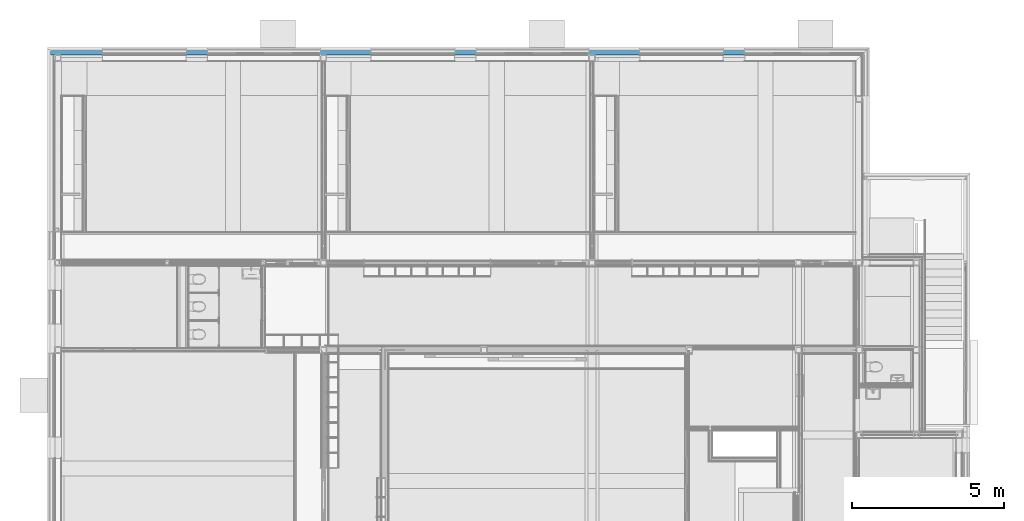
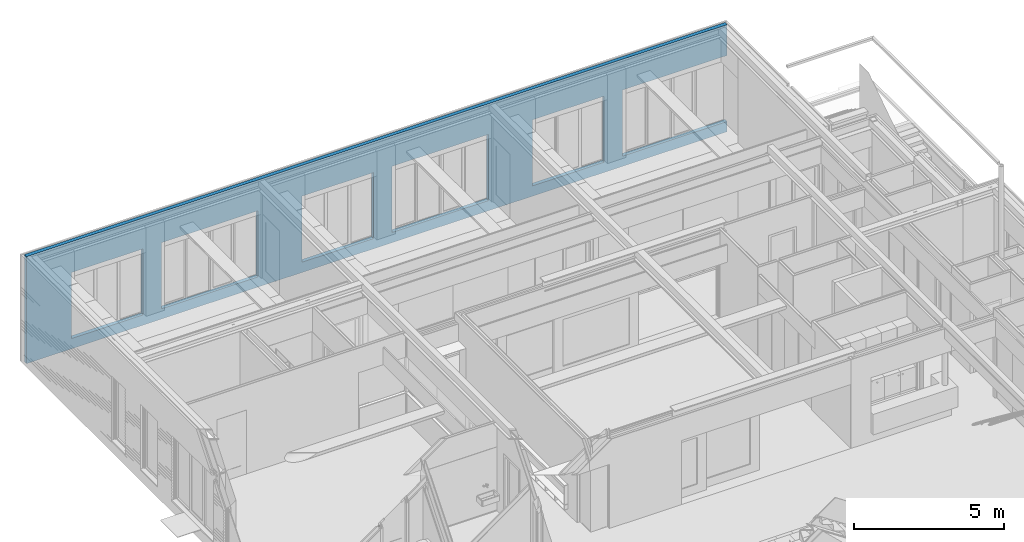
# One storey, part 85 of 165: 1 building element part, 11 openings, 1 element without a shape of its own.
"""IFC2X3 building model written with IfcOpenShell, lengths in millimetres."""

from ifc_helpers import new_model, entity, si_unit, converted_unit, derived_unit, money_unit, direction, frame, origin_with_axes, place, context, subcontext, project, spatial, faceted_brep, material, type_object, element, aggregate, save


model = new_model("IFC2X3")

# Units and contexts
model_context = context("Model", 3, precision=0.01, world=origin_with_axes(), true_north=direction((0.0, 1.0)))
body_context = subcontext(model_context, "Body", "Model", "MODEL_VIEW")
ifc_project = project(units=[si_unit("LENGTHUNIT", "METRE", prefix="MILLI"), si_unit("AREAUNIT", "SQUARE_METRE"), si_unit("VOLUMEUNIT", "CUBIC_METRE"), converted_unit("PLANEANGLEUNIT", "DEGREE", entity("IfcPlaneAngleMeasure", 0.0174532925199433), si_unit("PLANEANGLEUNIT", "RADIAN"), dimensions=[0, 0, 0, 0, 0, 0, 0]), money_unit("EUR"), converted_unit("TIMEUNIT", "Year", entity("IfcTimeMeasure", 31556926.0), si_unit("TIMEUNIT", "SECOND"), dimensions=[0, 0, 1, 0, 0, 0, 0]), si_unit("MASSUNIT", "GRAM", prefix="KILO"), si_unit("THERMODYNAMICTEMPERATUREUNIT", "DEGREE_CELSIUS"), si_unit("LUMINOUSINTENSITYUNIT", "LUMEN"), si_unit("ENERGYUNIT", "JOULE", prefix="MEGA"), derived_unit("THERMALCONDUCTANCEUNIT", [(si_unit("POWERUNIT", "WATT"), 1), (si_unit("LENGTHUNIT", "METRE"), -1), (si_unit("THERMODYNAMICTEMPERATUREUNIT", "KELVIN"), -1)]), derived_unit("SPECIFICHEATCAPACITYUNIT", [(si_unit("ENERGYUNIT", "JOULE"), 1), (si_unit("MASSUNIT", "GRAM", prefix="KILO"), -1), (si_unit("THERMODYNAMICTEMPERATUREUNIT", "KELVIN"), -1)]), derived_unit("MASSDENSITYUNIT", [(si_unit("MASSUNIT", "GRAM", prefix="KILO"), 1), (si_unit("VOLUMEUNIT", "CUBIC_METRE"), -1)])], contexts=[model_context])

# Site, building, storey
site_placement = place(None, origin_with_axes())
site = spatial("IfcSite", under=ifc_project, at=site_placement, Name="Site", CompositionType="ELEMENT")
building_placement = place(site_placement, origin_with_axes())
building = spatial("IfcBuilding", under=site, at=building_placement, Name="Naam gebouw", CompositionType="ELEMENT")
storey_placement = place(building_placement, origin_with_axes())
storey = spatial("IfcBuildingStorey", under=building, at=storey_placement, Name="Begane grond", CompositionType="ELEMENT", Elevation=0.0)

# Wall, openings, building element part
wall_type = type_object("IfcWallType", Name="21 Buitenwand spouwmuur 464", PredefinedType="NOTDEFINED")
wall_placement = place(storey_placement, frame((0.0, 29175.0, -485.0), z_axis=(0.0, 0.0, 1.0), x_axis=(1.0, 0.0, 0.0)))
wall = element("IfcWall", 1, at=wall_placement, inside=storey, type_object=wall_type, Name="21_Wand-x")
opening_1_placement = place(wall_placement, frame((24792.49942456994, 0.0, 415.0000443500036), z_axis=(0.0, 0.0, 1.0), x_axis=(1.0, 0.0, 0.0)))
element("IfcOpeningElement", 2, at=opening_1_placement, cuts=wall, Name="_Merk AB2", context=body_context, shape_type="Brep", body=[
    faceted_brep([(-2057.500000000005, 0.0, 2679.999942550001), (1807.500575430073, 0.0, 2679.999942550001), (2057.499999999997, 249.9994245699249, 2679.999942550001), (2057.499999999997, 251.0000000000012, 2679.999942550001), (-2057.500000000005, 251.0000000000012, 2679.999942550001), (-2057.500000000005, 0.0, 3669.999953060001), (1807.500575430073, 0.0, 3669.999953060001), (1592.500575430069, -214.9999999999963, 3669.999953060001), (1592.500575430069, -214.9999999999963, 2679.999942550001), (1592.500575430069, -214.9999999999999, 0.0), (2057.499999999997, 249.9994245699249, 0.0), (2057.499999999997, 251.0000000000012, 0.0), (-2057.500000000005, 251.0000000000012, 0.0), (-2057.500000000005, -214.9999999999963, 2679.999942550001), (-2057.500000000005, -214.9999999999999, 0.0), (-2057.500000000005, -214.9999999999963, 3669.999953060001)], [[[0, 1, 2, 3, 4]], [[1, 0, 5, 6]], [[2, 1, 6, 7, 8, 9, 10]], [[10, 11, 3, 2]], [[12, 4, 3, 11]], [[13, 0, 4, 12, 14]], [[0, 13, 15, 5]], [[6, 5, 15, 7]], [[13, 8, 7, 15]], [[8, 13, 14, 9]], [[9, 14, 12, 11, 10]]]),
])
opening_2_placement = place(wall_placement, frame((11799.99942456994, 0.0, 475.0), z_axis=(0.0, 0.0, 1.0), x_axis=(1.0, 0.0, 0.0)))
element("IfcOpeningElement", 3, at=opening_2_placement, cuts=wall, Name="_Merk AF", context=body_context, shape_type="Brep", body=[
    faceted_brep([(1375.0, 0.0, -60.00000000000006), (1375.0, 0.0, 2620.0), (1375.0, 0.0, 3620.0), (1375.0, -214.9999999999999, 3620.0), (1375.0, -214.9999999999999, -1060.0), (1375.0, 0.0, -1060.0), (1375.0, 71.99999999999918, -60.00000000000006), (1375.0, 71.99999999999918, 2620.0), (-1375.0, 0.0, 2620.0), (-1375.0, 0.0, 3620.0), (-1375.0, -214.9999999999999, 3620.0), (-1375.0, -214.9999999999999, -1060.0), (-1375.0, 0.0, -1060.0), (-1375.0, 0.0, -60.00000000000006), (-1375.0, 71.99999999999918, -60.00000000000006), (1385.0, 71.99999999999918, -60.00000000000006), (1385.0, 71.99999999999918, 2620.0), (-1375.0, 71.99999999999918, 2620.0), (-1385.0, 71.99999999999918, -60.00000000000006), (-1385.0, 251.0000000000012, -60.00000000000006), (1385.0, 251.0000000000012, -60.00000000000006), (1385.0, 251.0000000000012, 2620.0), (-1385.0, 251.0000000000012, 2620.0), (-1385.0, 71.99999999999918, 2620.0)], [[[0, 1, 2, 3, 4, 5]], [[1, 0, 6, 7]], [[1, 8, 9, 2]], [[2, 9, 10, 3]], [[10, 11, 4, 3]], [[12, 5, 4, 11]], [[13, 0, 5, 12]], [[0, 13, 14, 6]], [[7, 6, 15, 16]], [[8, 1, 7, 17]], [[8, 13, 12, 11, 10, 9]], [[13, 8, 17, 14]], [[6, 14, 18, 19, 20, 15]], [[16, 15, 20, 21]], [[17, 7, 16, 21, 22, 23]], [[14, 17, 23, 18]], [[18, 23, 22, 19]], [[21, 20, 19, 22]]]),
])
opening_3_placement = place(wall_placement, frame((2950.000000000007, 0.0, 475.0), z_axis=(0.0, 0.0, 1.0), x_axis=(1.0, 0.0, 0.0)))
element("IfcOpeningElement", 4, at=opening_3_placement, cuts=wall, Name="_Merk AF", context=body_context, shape_type="Brep", body=[
    faceted_brep([(1375.0, 0.0, -60.00000000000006), (1375.0, 0.0, 2620.0), (1375.0, 0.0, 3620.0), (1375.0, -214.9999999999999, 3620.0), (1375.0, -214.9999999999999, -1060.0), (1375.0, 0.0, -1060.0), (1375.0, 71.99999999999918, -60.00000000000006), (1375.0, 71.99999999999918, 2620.0), (-1375.0, 0.0, 2620.0), (-1375.0, 0.0, 3620.0), (-1375.0, -214.9999999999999, 3620.0), (-1375.0, -214.9999999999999, -1060.0), (-1375.0, 0.0, -1060.0), (-1375.0, 0.0, -60.00000000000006), (-1375.0, 71.99999999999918, -60.00000000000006), (1385.0, 71.99999999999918, -60.00000000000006), (1385.0, 71.99999999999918, 2620.0), (-1375.0, 71.99999999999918, 2620.0), (-1385.0, 71.99999999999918, -60.00000000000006), (-1385.0, 251.0000000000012, -60.00000000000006), (1385.0, 251.0000000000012, -60.00000000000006), (1385.0, 251.0000000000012, 2620.0), (-1385.0, 251.0000000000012, 2620.0), (-1385.0, 71.99999999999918, 2620.0)], [[[0, 1, 2, 3, 4, 5]], [[1, 0, 6, 7]], [[1, 8, 9, 2]], [[2, 9, 10, 3]], [[10, 11, 4, 3]], [[12, 5, 4, 11]], [[13, 0, 5, 12]], [[0, 13, 14, 6]], [[7, 6, 15, 16]], [[8, 1, 7, 17]], [[8, 13, 12, 11, 10, 9]], [[13, 8, 17, 14]], [[6, 14, 18, 19, 20, 15]], [[16, 15, 20, 21]], [[17, 7, 16, 21, 22, 23]], [[14, 17, 23, 18]], [[18, 23, 22, 19]], [[21, 20, 19, 22]]]),
])
opening_4_placement = place(wall_placement, frame((15734.99942456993, 0.0, 415.0000000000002), z_axis=(0.0, 0.0, 1.0), x_axis=(1.0, 0.0, 0.0)))
element("IfcOpeningElement", 5, at=opening_4_placement, cuts=wall, Name="_Merk AA", context=body_context, shape_type="Brep", body=[
    faceted_brep([(-1850.000000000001, 0.0, 2679.999942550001), (1850.000000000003, 0.0, 2679.999942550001), (1850.000000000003, 251.0000000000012, 2679.999942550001), (-1850.000000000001, 251.0000000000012, 2679.999942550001), (-1850.000000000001, 0.0, 3669.999942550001), (1850.000000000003, 0.0, 3669.999942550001), (1850.000000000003, -214.9999999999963, 2679.999942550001), (1850.000000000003, -214.9999999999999, 0.0), (1850.000000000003, 251.0000000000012, 0.0), (1850.000000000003, -214.9999999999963, 3669.999942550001), (-1850.000000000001, 251.0000000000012, 0.0), (-1850.000000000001, -214.9999999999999, 0.0), (-1850.000000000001, -214.9999999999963, 2679.999942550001), (-1850.000000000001, -214.9999999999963, 3669.999942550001)], [[[0, 1, 2, 3]], [[1, 0, 4, 5]], [[6, 7, 8, 2, 1, 5, 9]], [[10, 3, 2, 8]], [[0, 3, 10, 11, 12, 13, 4]], [[5, 4, 13, 9]], [[6, 12, 11, 7]], [[7, 11, 10, 8]], [[12, 6, 9, 13]]]),
])
opening_5_placement = place(wall_placement, frame((6885.000000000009, 0.0, 415.0), z_axis=(0.0, 0.0, 1.0), x_axis=(1.0, 0.0, 0.0)))
element("IfcOpeningElement", 6, at=opening_5_placement, cuts=wall, Name="_Merk AA", context=body_context, shape_type="Brep", body=[
    faceted_brep([(-1850.000000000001, 0.0, 2679.999942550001), (1850.000000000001, 0.0, 2679.999942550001), (1850.000000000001, 251.0000000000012, 2679.999942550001), (-1850.000000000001, 251.0000000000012, 2679.999942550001), (-1850.000000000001, 0.0, 3669.999942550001), (1850.000000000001, 0.0, 3669.999942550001), (1850.000000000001, -214.9999999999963, 2679.999942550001), (1850.000000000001, -214.9999999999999, 0.0), (1850.000000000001, 251.0000000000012, 0.0), (1850.000000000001, -214.9999999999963, 3669.999942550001), (-1850.000000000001, 251.0000000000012, 0.0), (-1850.000000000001, -214.9999999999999, 0.0), (-1850.000000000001, -214.9999999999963, 2679.999942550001), (-1850.000000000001, -214.9999999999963, 3669.999942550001)], [[[0, 1, 2, 3]], [[1, 0, 4, 5]], [[6, 7, 8, 2, 1, 5, 9]], [[10, 3, 2, 8]], [[0, 3, 10, 11, 12, 13, 4]], [[5, 4, 13, 9]], [[6, 12, 11, 7]], [[7, 11, 10, 8]], [[12, 6, 9, 13]]]),
])
opening_6_placement = place(wall_placement, frame((13934.99942456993, 0.0, 414.9999999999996), z_axis=(0.0, 0.0, 1.0), x_axis=(1.0, 0.0, 0.0)))
element("IfcOpeningElement", 7, at=opening_6_placement, cuts=wall, Name="_-", context=body_context, shape_type="Brep", body=[
    faceted_brep([(300.0000000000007, 0.0, 0.0), (300.0000000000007, 0.0, 2680.0), (300.0000000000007, 0.0, 3680.0), (300.0000000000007, -214.9999999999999, 3680.0), (300.0000000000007, -214.9999999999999, 0.0), (300.0000000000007, 71.99999999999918, 0.0), (300.0000000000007, 71.99999999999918, 2680.0), (-50.00000000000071, 0.0, 2680.0), (-50.00000000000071, 0.0, 3680.0), (-50.00000000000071, -214.9999999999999, 3680.0), (-50.00000000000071, -214.9999999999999, 0.0), (-50.00000000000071, 0.0, 0.0), (-50.00000000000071, 71.99999999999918, 0.0), (300.0000000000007, 251.0000000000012, 0.0), (300.0000000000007, 251.0000000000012, 2680.0), (-50.00000000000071, 71.99999999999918, 2680.0), (-60.0000000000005, 71.99999999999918, 0.0), (-60.0000000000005, 251.0000000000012, 0.0), (-60.0000000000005, 251.0000000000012, 2680.0), (-60.0000000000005, 71.99999999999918, 2680.0)], [[[0, 1, 2, 3, 4]], [[1, 0, 5, 6]], [[1, 7, 8, 2]], [[2, 8, 9, 3]], [[9, 10, 4, 3]], [[0, 4, 10, 11, 12, 5]], [[6, 5, 13, 14]], [[7, 1, 6, 15]], [[7, 11, 10, 9, 8]], [[11, 7, 15, 12]], [[5, 12, 16, 17, 13]], [[14, 13, 17, 18]], [[15, 6, 14, 18, 19]], [[12, 15, 19, 16]], [[16, 19, 18, 17]]]),
])
opening_7_placement = place(wall_placement, frame((17534.99942456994, 0.0, 414.9999999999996), z_axis=(0.0, 0.0, 1.0), x_axis=(1.0, 0.0, 0.0)))
element("IfcOpeningElement", 8, at=opening_7_placement, cuts=wall, Name="_-", context=body_context, shape_type="Brep", body=[
    faceted_brep([(50.00000000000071, 0.0, 0.0), (50.00000000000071, 0.0, 2680.0), (50.00000000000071, 0.0, 3680.0), (50.00000000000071, -214.9999999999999, 3680.0), (50.00000000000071, -214.9999999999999, 0.0), (50.00000000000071, 71.99999999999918, 0.0), (50.00000000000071, 71.99999999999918, 2680.0), (-300.0000000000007, 0.0, 2680.0), (-300.0000000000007, 0.0, 3680.0), (-300.0000000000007, -214.9999999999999, 3680.0), (-300.0000000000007, -214.9999999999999, 0.0), (-300.0000000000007, 0.0, 0.0), (-300.0000000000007, 71.99999999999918, 0.0), (59.99999999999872, 71.99999999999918, 0.0), (59.99999999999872, 71.99999999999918, 2680.0), (-300.0000000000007, 71.99999999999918, 2680.0), (-300.0000000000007, 251.0000000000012, 0.0), (59.99999999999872, 251.0000000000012, 0.0), (59.99999999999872, 251.0000000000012, 2680.0), (-300.0000000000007, 251.0000000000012, 2680.0)], [[[0, 1, 2, 3, 4]], [[1, 0, 5, 6]], [[1, 7, 8, 2]], [[2, 8, 9, 3]], [[9, 10, 4, 3]], [[0, 4, 10, 11, 12, 5]], [[6, 5, 13, 14]], [[7, 1, 6, 15]], [[7, 11, 10, 9, 8]], [[11, 7, 15, 12]], [[5, 12, 16, 17, 13]], [[14, 13, 17, 18]], [[15, 6, 14, 18, 19]], [[12, 15, 19, 16]], [[18, 17, 16, 19]]]),
])
opening_8_placement = place(wall_placement, frame((20649.99942456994, 0.0, 475.0), z_axis=(0.0, 0.0, 1.0), x_axis=(1.0, 0.0, 0.0)))
element("IfcOpeningElement", 9, at=opening_8_placement, cuts=wall, Name="_Merk AF", context=body_context, shape_type="Brep", body=[
    faceted_brep([(1375.0, 0.0, -60.00000000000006), (1375.0, 0.0, 2620.0), (1375.0, 0.0, 3620.0), (1375.0, -214.9999999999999, 3620.0), (1375.0, -214.9999999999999, -1060.0), (1375.0, 0.0, -1060.0), (1375.0, 71.99999999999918, -60.00000000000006), (1375.0, 71.99999999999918, 2620.0), (-1375.0, 0.0, 2620.0), (-1375.0, 0.0, 3620.0), (-1375.0, -214.9999999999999, 3620.0), (-1375.0, -214.9999999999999, -1060.0), (-1375.0, 0.0, -1060.0), (-1375.0, 0.0, -60.00000000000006), (-1375.0, 71.99999999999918, -60.00000000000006), (1385.000000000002, 71.99999999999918, -60.00000000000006), (1385.000000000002, 71.99999999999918, 2620.0), (-1375.0, 71.99999999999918, 2620.0), (-1385.000000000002, 71.99999999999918, -60.00000000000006), (-1385.000000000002, 251.0000000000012, -60.00000000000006), (1385.000000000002, 251.0000000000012, -60.00000000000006), (1385.000000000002, 251.0000000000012, 2620.0), (-1385.000000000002, 251.0000000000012, 2620.0), (-1385.000000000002, 71.99999999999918, 2620.0)], [[[0, 1, 2, 3, 4, 5]], [[1, 0, 6, 7]], [[1, 8, 9, 2]], [[2, 9, 10, 3]], [[10, 11, 4, 3]], [[12, 5, 4, 11]], [[13, 0, 5, 12]], [[0, 13, 14, 6]], [[7, 6, 15, 16]], [[8, 1, 7, 17]], [[8, 13, 12, 11, 10, 9]], [[13, 8, 17, 14]], [[6, 14, 18, 19, 20, 15]], [[16, 15, 20, 21]], [[17, 7, 16, 21, 22, 23]], [[14, 17, 23, 18]], [[18, 23, 22, 19]], [[21, 20, 19, 22]]]),
])
opening_9_placement = place(wall_placement, frame((8685.000000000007, 0.0, 414.9999999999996), z_axis=(0.0, 0.0, 1.0), x_axis=(1.0, 0.0, 0.0)))
element("IfcOpeningElement", 10, at=opening_9_placement, cuts=wall, Name="_-", context=body_context, shape_type="Brep", body=[
    faceted_brep([(50.00000000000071, 0.0, 0.0), (50.00000000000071, 0.0, 2680.0), (50.00000000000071, 0.0, 3680.0), (50.00000000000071, -214.9999999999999, 3680.0), (50.00000000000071, -214.9999999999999, 0.0), (50.00000000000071, 71.99999999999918, 0.0), (50.00000000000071, 71.99999999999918, 2680.0), (-300.0000000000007, 0.0, 2680.0), (-300.0000000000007, 0.0, 3680.0), (-300.0000000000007, -214.9999999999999, 3680.0), (-300.0000000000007, -214.9999999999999, 0.0), (-300.0000000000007, 0.0, 0.0), (-300.0000000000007, 71.99999999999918, 0.0), (60.0000000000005, 71.99999999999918, 0.0), (60.0000000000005, 71.99999999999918, 2680.0), (-300.0000000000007, 71.99999999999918, 2680.0), (-300.0000000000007, 251.0000000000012, 0.0), (60.0000000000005, 251.0000000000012, 0.0), (60.0000000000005, 251.0000000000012, 2680.0), (-300.0000000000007, 251.0000000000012, 2680.0)], [[[0, 1, 2, 3, 4]], [[1, 0, 5, 6]], [[1, 7, 8, 2]], [[2, 8, 9, 3]], [[9, 10, 4, 3]], [[0, 4, 10, 11, 12, 5]], [[6, 5, 13, 14]], [[7, 1, 6, 15]], [[7, 11, 10, 9, 8]], [[11, 7, 15, 12]], [[5, 12, 16, 17, 13]], [[14, 13, 17, 18]], [[15, 6, 14, 18, 19]], [[12, 15, 19, 16]], [[18, 17, 16, 19]]]),
])
opening_10_placement = place(wall_placement, frame((5085.000000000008, 0.0, 414.9999999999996), z_axis=(0.0, 0.0, 1.0), x_axis=(1.0, 0.0, 0.0)))
element("IfcOpeningElement", 11, at=opening_10_placement, cuts=wall, Name="_-", context=body_context, shape_type="Brep", body=[
    faceted_brep([(299.9999999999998, 0.0, 0.0), (299.9999999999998, 0.0, 2680.0), (299.9999999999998, 0.0, 3680.0), (299.9999999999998, -214.9999999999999, 3680.0), (299.9999999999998, -214.9999999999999, 0.0), (299.9999999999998, 71.99999999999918, 0.0), (299.9999999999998, 71.99999999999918, 2680.0), (-49.99999999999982, 0.0, 2680.0), (-49.99999999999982, 0.0, 3680.0), (-49.99999999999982, -214.9999999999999, 3680.0), (-49.99999999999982, -214.9999999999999, 0.0), (-49.99999999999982, 0.0, 0.0), (-49.99999999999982, 71.99999999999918, 0.0), (299.9999999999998, 251.0000000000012, 0.0), (299.9999999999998, 251.0000000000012, 2680.0), (-49.99999999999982, 71.99999999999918, 2680.0), (-59.99999999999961, 71.99999999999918, 0.0), (-59.99999999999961, 251.0000000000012, 0.0), (-59.99999999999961, 251.0000000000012, 2680.0), (-59.99999999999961, 71.99999999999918, 2680.0)], [[[0, 1, 2, 3, 4]], [[1, 0, 5, 6]], [[1, 7, 8, 2]], [[2, 8, 9, 3]], [[9, 10, 4, 3]], [[0, 4, 10, 11, 12, 5]], [[6, 5, 13, 14]], [[7, 1, 6, 15]], [[7, 11, 10, 9, 8]], [[11, 7, 15, 12]], [[5, 12, 16, 17, 13]], [[14, 13, 17, 18]], [[15, 6, 14, 18, 19]], [[12, 15, 19, 16]], [[16, 19, 18, 17]]]),
])
opening_11_placement = place(wall_placement, frame((22784.99942456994, 0.0, 414.9999999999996), z_axis=(0.0, 0.0, 1.0), x_axis=(1.0, 0.0, 0.0)))
element("IfcOpeningElement", 12, at=opening_11_placement, cuts=wall, Name="_-", context=body_context, shape_type="Brep", body=[
    faceted_brep([(300.0000000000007, 0.0, 0.0), (300.0000000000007, 0.0, 2680.0), (300.0000000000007, 0.0, 3680.0), (300.0000000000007, -214.9999999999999, 3680.0), (300.0000000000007, -214.9999999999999, 0.0), (300.0000000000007, 71.99999999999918, 0.0), (300.0000000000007, 71.99999999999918, 2680.0), (-50.00000000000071, 0.0, 2680.0), (-50.00000000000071, 0.0, 3680.0), (-50.00000000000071, -214.9999999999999, 3680.0), (-50.00000000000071, -214.9999999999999, 0.0), (-50.00000000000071, 0.0, 0.0), (-50.00000000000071, 71.99999999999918, 0.0), (300.0000000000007, 251.0000000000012, 0.0), (300.0000000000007, 251.0000000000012, 2680.0), (-50.00000000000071, 71.99999999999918, 2680.0), (-59.99999999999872, 71.99999999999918, 0.0), (-59.99999999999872, 251.0000000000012, 0.0), (-59.99999999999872, 251.0000000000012, 2680.0), (-59.99999999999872, 71.99999999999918, 2680.0)], [[[0, 1, 2, 3, 4]], [[1, 0, 5, 6]], [[1, 7, 8, 2]], [[2, 8, 9, 3]], [[9, 10, 4, 3]], [[0, 4, 10, 11, 12, 5]], [[6, 5, 13, 14]], [[7, 1, 6, 15]], [[7, 11, 10, 9, 8]], [[11, 7, 15, 12]], [[5, 12, 16, 17, 13]], [[14, 13, 17, 18]], [[15, 6, 14, 18, 19]], [[12, 15, 19, 16]], [[16, 19, 18, 17]]]),
])
ifc_material = material(Name="Isolatie - Steenwol zacht")
building_element_part_placement = place(wall_placement, origin_with_axes())
building_element_part = element("IfcBuildingElementPart", 13, at=building_element_part_placement, material=ifc_material, Name="Isolatie - Steenwol zacht", context=body_context, shape_type="Brep", body=[
    faceted_brep([(26745.0, 145.0000000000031, 4345.0), (26744.99984001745, 145.000159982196, 3094.999986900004), (23084.99942456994, 144.9999999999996, 3094.999986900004), (22724.99942456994, 144.9999999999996, 3095.0), (22724.99942456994, 144.9999999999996, 414.9999999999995), (23084.99942456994, 144.9999999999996, 415.0000443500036), (26744.99978658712, 145.0002134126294, 415.0000443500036), (26745.0, 145.0000000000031, 0.0), (-144.9999999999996, 144.9999999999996, 0.0), (-144.9999999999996, 144.9999999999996, 4345.0), (19264.99942456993, 144.9999999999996, 3095.0), (19264.99942456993, 144.9999999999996, 414.9999999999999), (22034.99942456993, 144.9999999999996, 414.9999999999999), (22034.99942456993, 144.9999999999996, 3095.0), (13184.99942456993, 145.0000000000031, 414.9999999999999), (13184.99942456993, 145.0000000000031, 3095.0), (10414.99942456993, 145.0000000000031, 3095.0), (10414.99942456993, 145.0000000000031, 414.9999999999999), (1565.000000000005, 144.9999999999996, 3095.0), (1565.000000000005, 144.9999999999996, 414.9999999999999), (4335.000000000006, 144.9999999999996, 414.9999999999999), (4335.000000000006, 144.9999999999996, 3095.0), (17594.99942456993, 144.9999999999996, 3095.0), (17584.99942456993, 145.0000000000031, 3095.0), (13884.99942456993, 145.0000000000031, 3095.0), (13874.99942456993, 144.9999999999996, 3095.0), (13874.99942456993, 144.9999999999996, 414.9999999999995), (13884.99942456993, 145.0000000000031, 414.9999999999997), (17584.99942456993, 145.0000000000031, 414.9999999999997), (17594.99942456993, 144.9999999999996, 414.9999999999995), (5025.000000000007, 145.0000000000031, 414.9999999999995), (5035.000000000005, 145.0000000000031, 414.9999999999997), (8735.00000000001, 145.0000000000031, 414.9999999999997), (8745.000000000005, 145.0000000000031, 414.9999999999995), (8745.000000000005, 145.0000000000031, 3095.0), (8735.00000000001, 145.0000000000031, 3095.0), (5035.000000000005, 145.0000000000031, 3095.0), (5025.000000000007, 145.0000000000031, 3095.0), (26745.0, 0.0, 4345.0), (26745.0, 0.0, 3095.0), (23084.99942456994, 71.99999999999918, 3094.999986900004), (26671.9999205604, 72.00007943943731, 3094.999986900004), (26600.00000000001, 0.0, 3094.999986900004), (23084.99942456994, 0.0, 3094.999986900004), (22734.99942456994, 71.99999999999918, 3095.0), (22724.99942456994, 71.99999999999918, 3095.0), (22724.99942456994, 71.99999999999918, 414.9999999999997), (22734.99942456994, 71.99999999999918, 414.9999999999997), (23084.99942456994, 71.99999999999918, 415.0000443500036), (26599.99987278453, 0.0001272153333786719, 415.0000443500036), (26671.99982998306, 72.00017001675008, 415.0000443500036), (23084.99942456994, 0.0, 415.0000443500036), (26745.0, 0.0, 414.9999999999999), (26745.0, 0.0, 0.0), (-144.9999999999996, 0.0, 0.0), (-144.9999999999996, 0.0, 4345.0), (19264.99942456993, 71.99999999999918, 414.9999999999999), (19264.99942456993, 71.99999999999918, 3095.0), (19274.99942456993, 71.99999999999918, 414.9999999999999), (22024.99942456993, 71.99999999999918, 414.9999999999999), (22034.99942456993, 71.99999999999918, 414.9999999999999), (22034.99942456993, 71.99999999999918, 3095.0), (22024.99942456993, 71.99999999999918, 3095.0), (19274.99942456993, 71.99999999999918, 3095.0), (13184.99942456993, 71.99999999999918, 414.9999999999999), (13184.99942456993, 71.99999999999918, 3095.0), (13174.99942456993, 71.99999999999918, 3095.0), (10424.99942456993, 71.99999999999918, 3095.0), (10414.99942456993, 71.99999999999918, 3095.0), (10414.99942456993, 71.99999999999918, 414.9999999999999), (10424.99942456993, 71.99999999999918, 414.9999999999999), (13174.99942456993, 71.99999999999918, 414.9999999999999), (1565.000000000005, 71.99999999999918, 414.9999999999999), (1565.000000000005, 71.99999999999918, 3095.0), (1575.000000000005, 71.99999999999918, 414.9999999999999), (4325.000000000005, 71.99999999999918, 414.9999999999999), (4335.000000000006, 71.99999999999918, 414.9999999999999), (4335.000000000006, 71.99999999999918, 3095.0), (4325.000000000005, 71.99999999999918, 3095.0), (1575.000000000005, 71.99999999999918, 3095.0), (17594.99942456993, 71.99999999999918, 3095.0), (17584.99942456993, 71.99999999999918, 3095.0), (13884.99942456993, 71.99999999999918, 3095.0), (17584.99942456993, 0.0, 3094.999942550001), (13884.99942456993, 0.0, 3094.999942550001), (13874.99942456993, 71.99999999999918, 3095.0), (13874.99942456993, 71.99999999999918, 414.9999999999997), (13884.99942456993, 71.99999999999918, 414.9999999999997), (13884.99942456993, 0.0, 415.0000000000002), (17584.99942456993, 0.0, 415.0000000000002), (17584.99942456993, 71.99999999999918, 414.9999999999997), (17594.99942456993, 71.99999999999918, 414.9999999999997), (5035.000000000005, 71.99999999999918, 414.9999999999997), (5025.000000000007, 71.99999999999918, 414.9999999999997), (8735.00000000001, 71.99999999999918, 414.9999999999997), (5035.000000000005, 0.0, 414.9999999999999), (8735.00000000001, 0.0, 414.9999999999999), (8745.000000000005, 71.99999999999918, 414.9999999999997), (8745.000000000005, 71.99999999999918, 3095.0), (8735.00000000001, 71.99999999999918, 3095.0), (8735.00000000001, 0.0, 3094.999942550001), (5035.000000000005, 0.0, 3094.999942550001), (5035.000000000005, 71.99999999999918, 3095.0), (5025.000000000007, 71.99999999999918, 3095.0), (22734.99942456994, 0.0, 3095.0), (26672.0, 0.0, 3095.0), (26672.0, 0.0, 414.9999999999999), (22734.99942456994, 0.0, 414.9999999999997), (22024.99942456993, 0.0, 3095.0), (22024.99942456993, 0.0, 414.9999999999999), (19274.99942456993, 0.0, 414.9999999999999), (19274.99942456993, 0.0, 3095.0), (10424.99942456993, 0.0, 414.9999999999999), (10424.99942456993, 0.0, 3095.0), (13174.99942456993, 0.0, 3095.0), (13174.99942456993, 0.0, 414.9999999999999), (4325.000000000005, 0.0, 3095.0), (4325.000000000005, 0.0, 414.9999999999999), (1575.000000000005, 0.0, 414.9999999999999), (1575.000000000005, 0.0, 3095.0)], [[[0, 1, 2, 3, 4, 5, 6, 7, 8, 9], [10, 11, 12, 13], [14, 15, 16, 17], [18, 19, 20, 21], [22, 23, 24, 25, 26, 27, 28, 29], [30, 31, 32, 33, 34, 35, 36, 37]], [[38, 39, 1, 0]], [[40, 2, 1, 41, 42, 43]], [[3, 2, 40, 44, 45]], [[46, 4, 3, 45]], [[47, 48, 5, 4, 46]], [[49, 50, 6, 5, 48, 51]], [[7, 6, 52, 53]], [[54, 8, 7, 53]], [[9, 8, 54, 55]], [[9, 55, 38, 0]], [[56, 11, 10, 57]], [[11, 56, 58, 59, 60, 12]], [[61, 13, 12, 60]], [[13, 61, 62, 63, 57, 10]], [[14, 64, 65, 15]], [[15, 65, 66, 67, 68, 16]], [[16, 68, 69, 17]], [[17, 69, 70, 71, 64, 14]], [[72, 19, 18, 73]], [[19, 72, 74, 75, 76, 20]], [[77, 21, 20, 76]], [[21, 77, 78, 79, 73, 18]], [[80, 81, 23, 22]], [[82, 24, 23, 81, 83, 84]], [[85, 25, 24, 82]], [[86, 26, 25, 85]], [[86, 87, 27, 26]], [[88, 89, 90, 28, 27, 87]], [[90, 91, 29, 28]], [[91, 80, 22, 29]], [[92, 31, 30, 93]], [[94, 32, 31, 92, 95, 96]], [[32, 94, 97, 33]], [[33, 97, 98, 34]], [[34, 98, 99, 35]], [[100, 101, 102, 36, 35, 99]], [[37, 36, 102, 103]], [[30, 37, 103, 93]], [[104, 43, 42, 105, 39, 38, 55, 54, 53, 52, 106, 49, 51, 107], [108, 109, 110, 111], [112, 113, 114, 115], [116, 117, 118, 119], [84, 83, 89, 88], [95, 101, 100, 96]], [[105, 41, 1, 39]], [[105, 42, 41]], [[44, 40, 43, 104]], [[46, 45, 44, 47]], [[107, 51, 48, 47]], [[106, 50, 49]], [[52, 6, 50, 106]], [[56, 57, 63, 58]], [[110, 109, 59, 58]], [[61, 60, 59, 62]], [[108, 111, 63, 62]], [[71, 66, 65, 64]], [[67, 66, 114, 113]], [[67, 70, 69, 68]], [[71, 70, 112, 115]], [[72, 73, 79, 74]], [[118, 117, 75, 74]], [[77, 76, 75, 78]], [[116, 119, 79, 78]], [[80, 91, 90, 81]], [[89, 83, 81, 90]], [[88, 87, 82, 84]], [[85, 82, 87, 86]], [[102, 92, 93, 103]], [[92, 102, 101, 95]], [[94, 96, 100, 99]], [[99, 98, 97, 94]], [[104, 107, 47, 44]], [[109, 108, 62, 59]], [[111, 110, 58, 63]], [[70, 67, 113, 112]], [[66, 71, 115, 114]], [[117, 116, 78, 75]], [[119, 118, 74, 79]]]),
])
aggregate(wall, [building_element_part])

save(model, "model.ifc")
